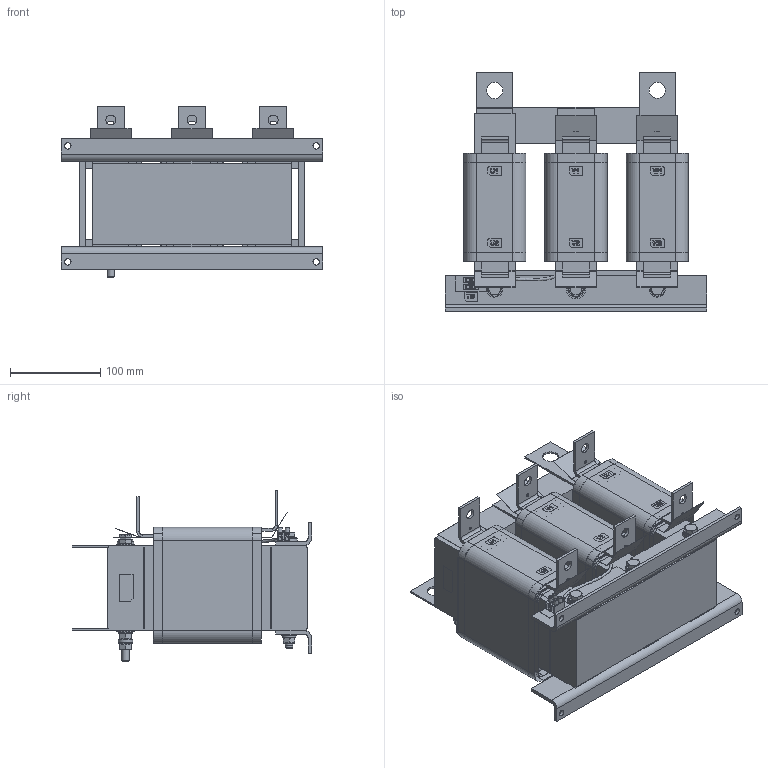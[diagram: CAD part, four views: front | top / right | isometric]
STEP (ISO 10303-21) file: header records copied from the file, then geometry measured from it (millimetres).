
FILE_DESCRIPTION(/* description */ ('raw material description'),/* implementation_level */ '2;1');
FILE_NAME(/* name */ 'C:\Users\Erika.Jenzer\Desktop\Neuer Ordner\FN5060HV-115-99.stp',/* time_stamp */ '2019-11-18T13:58:37+01:00',/* author */ ('erika.jenzer'),/* organization */ ('Schaffner EMV AG'),/* preprocessor_version */ 'ST-DEVELOPER v16.5',/* originating_system */ 'Autodesk Inventor 2017',/* authorisation */ '');
FILE_SCHEMA (('AUTOMOTIVE_DESIGN { 1 0 10303 214 3 1 1 }'));
Products named in the file (1): FN5060HV-115-99
Bounding box: 290 x 265.07 x 189.54 mm (x, y, z)
Volume: 4365119.8 mm3; surface area: 979931.9 mm2
Topology: 39 solids, 49 shells, 1893 faces, 4934 edges, 3220 vertices
Faces by surface type: plane 1262, cylinder 403, cone 130, bspline 79, torus 18, sphere 1
Full cylindrical faces by diameter (mm): 0.01 x2, 1 x2, 2 x2, 2.5 x1, 2.8 x11, 3 x1, 3.4 x4, 7 x4, 8 x13, 8.2 x6, 8.4 x13, 9.9 x5, 10.5 x3, 11 x16, 11.4 x6, 13 x1, 16 x11, 18 x7, 20 x2
Entity records: 60137 total; most frequent: CARTESIAN_POINT 12768, ORIENTED_EDGE 9432, DIRECTION 9023, EDGE_CURVE 4709, LINE 3323, VECTOR 3323, VERTEX_POINT 3165, AXIS2_PLACEMENT_3D 2850
